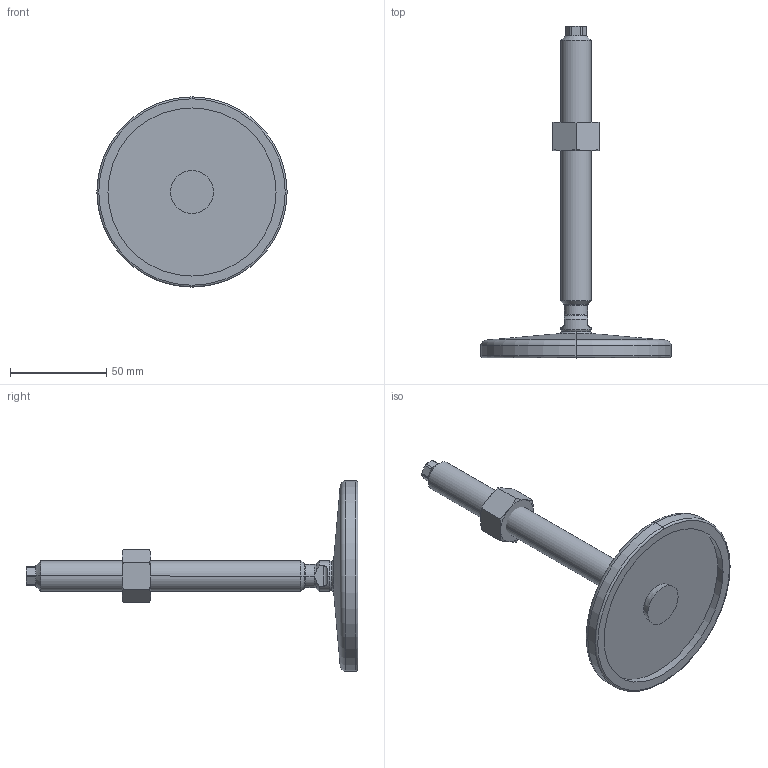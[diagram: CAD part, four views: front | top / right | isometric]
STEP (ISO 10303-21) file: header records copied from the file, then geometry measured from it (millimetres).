
FILE_DESCRIPTION (( 'STEP AP214' ), '1' );
FILE_NAME ('21-100-M16-150-D0-VK.step', '2020-10-02T17:36:56', ( '' ), ( '' ), 'SwSTEP 2.0', 'SolidWorks 2019', '' );
FILE_SCHEMA (( 'AUTOMOTIVE_DESIGN' ));
Length unit declared in the file: millimetre
Products named in the file (4): WB21_Fußteller 21^WB21_V_D0-100-R10-B7 (M8 M10_M12_M16); WB21_Spindel_V^WB21_V_M16-150; WB4032^WB21_V_M16; 21-100-M16-150-D0-VK
Assembly tree (3 placements, depth 2):
  21-100-M16-150-D0-VK
    WB21_Fußteller 21^WB21_V_D0-100-R10-B7 (M8 M10_M12_M16)
    WB21_Spindel_V^WB21_V_M16-150
    WB4032^WB21_V_M16
Bounding box: 99 x 172.64 x 99 mm (x, y, z)
Volume: 89526 mm3; surface area: 30588.9 mm2
Topology: 3 solids, 3 shells, 101 faces, 225 edges, 133 vertices
Faces by surface type: cone 33, plane 29, cylinder 25, torus 10, sphere 4
Entity records: 3168 total; most frequent: CARTESIAN_POINT 741, DIRECTION 492, ORIENTED_EDGE 450, EDGE_CURVE 225, AXIS2_PLACEMENT_3D 212, VERTEX_POINT 133, EDGE_LOOP 106, CIRCLE 105
